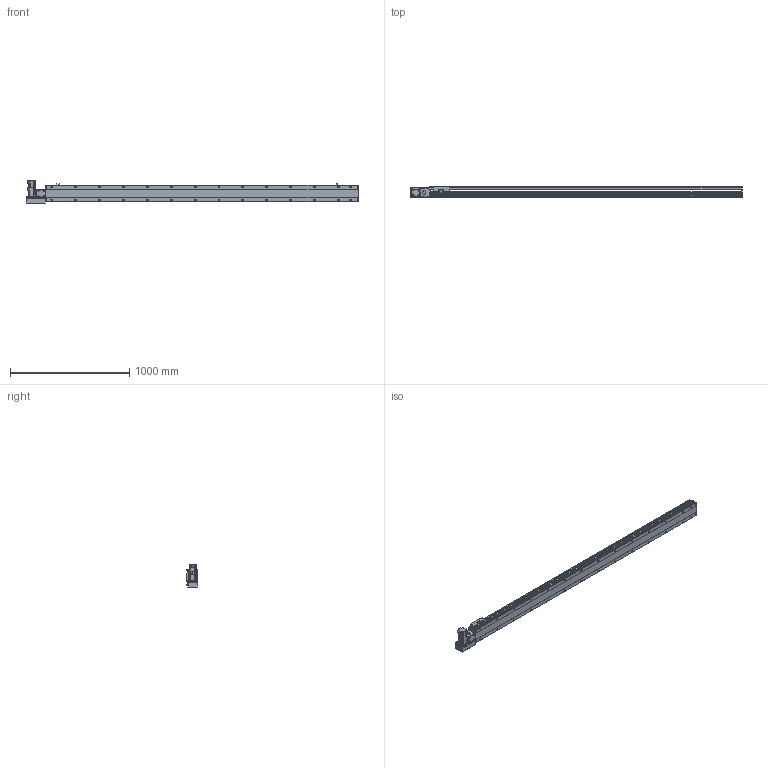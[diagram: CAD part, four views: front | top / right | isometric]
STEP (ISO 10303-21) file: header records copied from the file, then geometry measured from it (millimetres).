
FILE_DESCRIPTION(/* description */ ('STEP AP214'),/* implementation_level */ '2;1');
FILE_NAME(/* name */ 'PBS140S-P40-S2350-L-T40-C1-N(0)',/* time_stamp */ '2022-06-09T02:04:00+02:00',/* author */ ('License CC BY-ND 4.0'),/* organization */ ('CADENAS'),/* preprocessor_version */ 'ST-DEVELOPER v18.102',/* originating_system */ 'PARTsolutions',/* authorisation */ ' ');
FILE_SCHEMA (('AUTOMOTIVE_DESIGN {1 0 10303 214 3 1 1}'));
Length unit declared in the file: millimetre
Products named in the file (7): PBS140S-P40-S2350-L-T40-C1-N(0); PBS140S_sensor; PBS140S_plant; PBS140S_sliser; T40-p1; PBS140ST-L_motors; PBS140S-S2350()_body
Assembly tree (8 placements, depth 2):
  PBS140S-P40-S2350-L-T40-C1-N(0)
    PBS140S_sensor  x3
    PBS140S_plant
    PBS140S_sliser
    T40-p1
    PBS140ST-L_motors
    PBS140S-S2350()_body
Bounding box: 2783 x 93 x 189.7 mm (x, y, z)
Volume: 13186336.7 mm3; surface area: 2225330.1 mm2
Topology: 8 solids, 8 shells, 1195 faces, 3151 edges, 2061 vertices
Faces by surface type: plane 738, cylinder 393, cone 54, sphere 8, torus 2
Full cylindrical faces by diameter (mm): 3.242 x4, 4 x2, 4.134 x4, 4.4 x8, 4.5 x2, 4.8 x4, 4.917 x36, 5.5 x7, 6 x2, 7 x30, 7.5 x8, 8 x12, 8.5 x4, 10.5 x28, 14 x1, 30 x2, 50 x2
Entity records: 34244 total; most frequent: CARTESIAN_POINT 6488, DIRECTION 5768, ORIENTED_EDGE 5422, EDGE_CURVE 2711, AXIS2_PLACEMENT_3D 2039, VERTEX_POINT 1897, LINE 1690, VECTOR 1690
